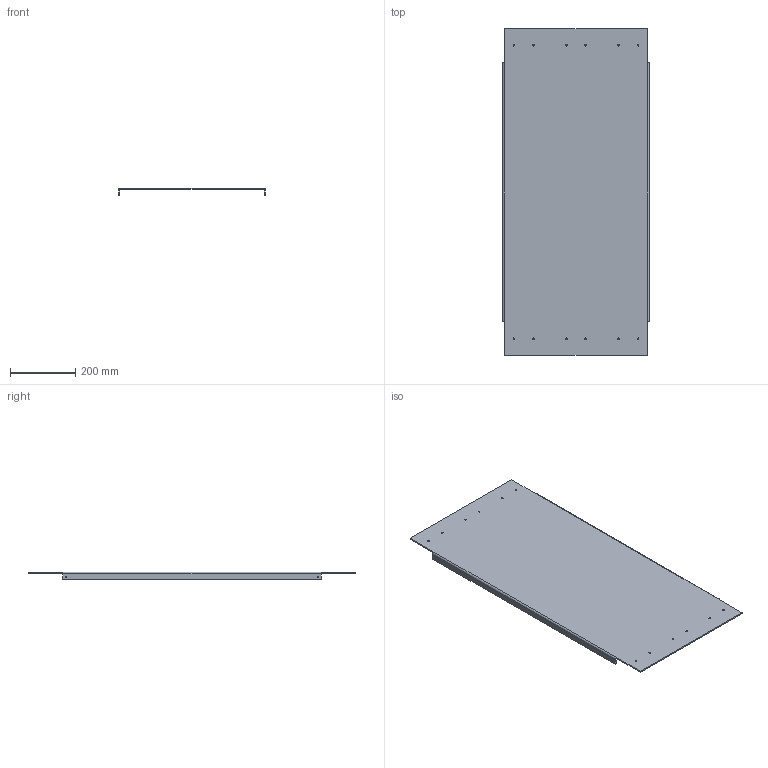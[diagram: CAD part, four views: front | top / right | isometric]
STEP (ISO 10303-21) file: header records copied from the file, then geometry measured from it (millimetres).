
FILE_DESCRIPTION(('HOOPS Exchange Step'),'2;1');
FILE_NAME('/private/var/mobile/Containers/Data/Application/E4481369-A8C6-45C6-A958-B1853E49479D/tmp/export/temp_export','2021-04-12T21:04:14+00:00',('mobile'),('Shapr3D Limited'),'HOOPS Exchange 2020.2','Shapr3D','Authorized');
FILE_SCHEMA( ('AP203_CONFIGURATION_CONTROLLED_3D_DESIGN_OF_MECHANICAL_PARTS_AND_ASSEMBLIES_MIM_LF') );
Length unit declared in the file: millimetre
Products named in the file (2): 0; /private/var/mobile/Containers/Data/Application/E4481369-A8C6-45C6-A958-B1853E49479D/tmp/EB17FA7C-913A-4DBA-97EF-746325F2B216.tmp
Assembly tree (1 placements, depth 2):
  /private/var/mobile/Containers/Data/Application/E4481369-A8C6-45C6-A958-B1853E49479D/tmp/EB17FA7C-913A-4DBA-97EF-746325F2B216.tmp
    0
Bounding box: 450 x 1000 x 24 mm (x, y, z)
Volume: 1908875.7 mm3; surface area: 967369 mm2
Topology: 1 solids, 1 shells, 46 faces, 144 edges, 100 vertices
Faces by surface type: cylinder 28, plane 18
Full cylindrical faces by diameter (mm): 5.2 x16
Entity records: 1771 total; most frequent: DIRECTION 318, CARTESIAN_POINT 293, ORIENTED_EDGE 288, EDGE_CURVE 144, AXIS2_PLACEMENT_3D 125, VERTEX_POINT 100, EDGE_LOOP 78, FACE_BOUND 78
